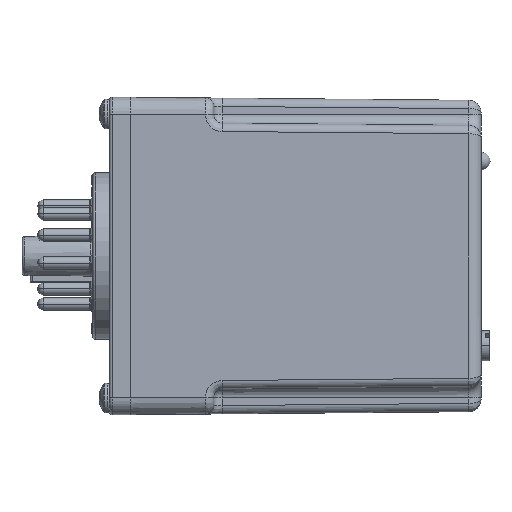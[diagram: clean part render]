
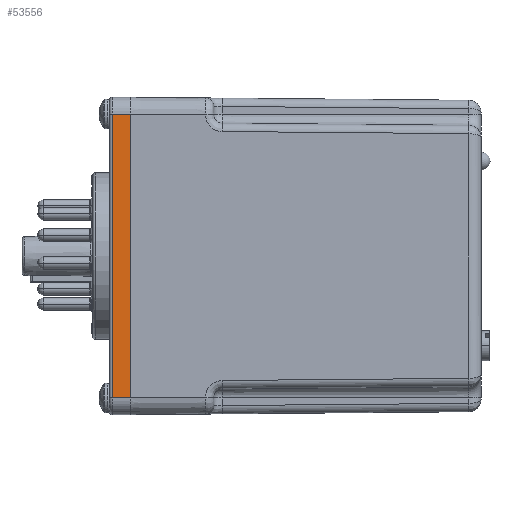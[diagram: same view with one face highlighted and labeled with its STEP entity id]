
A CAD part, left-side view. The second image highlights one B-rep face of the part: STEP entity #53556.
In plain terms, the highlighted planar face has unit normal (-1, 0, 0).
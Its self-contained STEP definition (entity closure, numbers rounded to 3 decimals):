
#31673 = CYLINDRICAL_SURFACE('',#31674,0.508);
#31674 = AXIS2_PLACEMENT_3D('',#31675,#31676,#31677);
#31675 = CARTESIAN_POINT('',(-21.717,51.791,-30.163));
#31676 = DIRECTION('',(0.,0.,1.));
#31677 = DIRECTION('',(1.,0.,0.));
#32260 = PLANE('',#32261);
#32261 = AXIS2_PLACEMENT_3D('',#32262,#32263,#32264);
#32262 = CARTESIAN_POINT('',(-22.225,48.336,-30.163));
#32263 = DIRECTION('',(0.,1.,0.));
#32264 = DIRECTION('',(1.,0.,-0.));
#38749 = VERTEX_POINT('',#38750);
#38750 = CARTESIAN_POINT('',(-22.225,48.336,26.988));
#38769 = CYLINDRICAL_SURFACE('',#38770,3.175);
#38770 = AXIS2_PLACEMENT_3D('',#38771,#38772,#38773);
#38771 = CARTESIAN_POINT('',(-19.05,48.336,26.988));
#38772 = DIRECTION('',(0.,1.,0.));
#38773 = DIRECTION('',(0.,0.,-1.));
#38781 = EDGE_CURVE('',#38782,#38749,#38784,.T.);
#38782 = VERTEX_POINT('',#38783);
#38783 = CARTESIAN_POINT('',(-22.225,48.336,-26.988));
#38784 = SURFACE_CURVE('',#38785,(#38789,#38796),.PCURVE_S1.);
#38785 = LINE('',#38786,#38787);
#38786 = CARTESIAN_POINT('',(-22.225,48.336,-30.163));
#38787 = VECTOR('',#38788,1.);
#38788 = DIRECTION('',(0.,-0.,1.));
#38789 = PCURVE('',#32260,#38790);
#38790 = DEFINITIONAL_REPRESENTATION('',(#38791),#38795);
#38791 = LINE('',#38792,#38793);
#38792 = CARTESIAN_POINT('',(0.,0.));
#38793 = VECTOR('',#38794,1.);
#38794 = DIRECTION('',(0.,-1.));
#38795 = ( GEOMETRIC_REPRESENTATION_CONTEXT(2) 
PARAMETRIC_REPRESENTATION_CONTEXT() REPRESENTATION_CONTEXT('2D SPACE',''
  ) );
#38796 = PCURVE('',#38797,#38802);
#38797 = PLANE('',#38798);
#38798 = AXIS2_PLACEMENT_3D('',#38799,#38800,#38801);
#38799 = CARTESIAN_POINT('',(-22.225,48.336,-30.163));
#38800 = DIRECTION('',(1.,0.,0.));
#38801 = DIRECTION('',(0.,0.,-1.));
#38802 = DEFINITIONAL_REPRESENTATION('',(#38803),#38807);
#38803 = LINE('',#38804,#38805);
#38804 = CARTESIAN_POINT('',(0.,0.));
#38805 = VECTOR('',#38806,1.);
#38806 = DIRECTION('',(-1.,0.));
#38807 = ( GEOMETRIC_REPRESENTATION_CONTEXT(2) 
PARAMETRIC_REPRESENTATION_CONTEXT() REPRESENTATION_CONTEXT('2D SPACE',''
  ) );
#38828 = CYLINDRICAL_SURFACE('',#38829,3.175);
#38829 = AXIS2_PLACEMENT_3D('',#38830,#38831,#38832);
#38830 = CARTESIAN_POINT('',(-19.05,52.299,-26.988));
#38831 = DIRECTION('',(0.,-1.,0.));
#38832 = DIRECTION('',(0.,0.,1.));
#53556 = ADVANCED_FACE('',(#53557),#38797,.F.);
#53557 = FACE_BOUND('',#53558,.T.);
#53558 = EDGE_LOOP('',(#53559,#53582,#53605,#53626));
#53559 = ORIENTED_EDGE('',*,*,#53560,.T.);
#53560 = EDGE_CURVE('',#38749,#53561,#53563,.T.);
#53561 = VERTEX_POINT('',#53562);
#53562 = CARTESIAN_POINT('',(-22.225,51.791,26.988));
#53563 = SURFACE_CURVE('',#53564,(#53568,#53575),.PCURVE_S1.);
#53564 = LINE('',#53565,#53566);
#53565 = CARTESIAN_POINT('',(-22.225,48.336,26.988));
#53566 = VECTOR('',#53567,1.);
#53567 = DIRECTION('',(0.,1.,0.));
#53568 = PCURVE('',#38797,#53569);
#53569 = DEFINITIONAL_REPRESENTATION('',(#53570),#53574);
#53570 = LINE('',#53571,#53572);
#53571 = CARTESIAN_POINT('',(-57.15,0.));
#53572 = VECTOR('',#53573,1.);
#53573 = DIRECTION('',(0.,1.));
#53574 = ( GEOMETRIC_REPRESENTATION_CONTEXT(2) 
PARAMETRIC_REPRESENTATION_CONTEXT() REPRESENTATION_CONTEXT('2D SPACE',''
  ) );
#53575 = PCURVE('',#38769,#53576);
#53576 = DEFINITIONAL_REPRESENTATION('',(#53577),#53581);
#53577 = LINE('',#53578,#53579);
#53578 = CARTESIAN_POINT('',(1.571,0.));
#53579 = VECTOR('',#53580,1.);
#53580 = DIRECTION('',(0.,1.));
#53581 = ( GEOMETRIC_REPRESENTATION_CONTEXT(2) 
PARAMETRIC_REPRESENTATION_CONTEXT() REPRESENTATION_CONTEXT('2D SPACE',''
  ) );
#53582 = ORIENTED_EDGE('',*,*,#53583,.T.);
#53583 = EDGE_CURVE('',#53561,#53584,#53586,.T.);
#53584 = VERTEX_POINT('',#53585);
#53585 = CARTESIAN_POINT('',(-22.225,51.791,-26.988));
#53586 = SURFACE_CURVE('',#53587,(#53591,#53598),.PCURVE_S1.);
#53587 = LINE('',#53588,#53589);
#53588 = CARTESIAN_POINT('',(-22.225,51.791,-30.163));
#53589 = VECTOR('',#53590,1.);
#53590 = DIRECTION('',(0.,0.,-1.));
#53591 = PCURVE('',#38797,#53592);
#53592 = DEFINITIONAL_REPRESENTATION('',(#53593),#53597);
#53593 = LINE('',#53594,#53595);
#53594 = CARTESIAN_POINT('',(0.,3.454));
#53595 = VECTOR('',#53596,1.);
#53596 = DIRECTION('',(1.,0.));
#53597 = ( GEOMETRIC_REPRESENTATION_CONTEXT(2) 
PARAMETRIC_REPRESENTATION_CONTEXT() REPRESENTATION_CONTEXT('2D SPACE',''
  ) );
#53598 = PCURVE('',#31673,#53599);
#53599 = DEFINITIONAL_REPRESENTATION('',(#53600),#53604);
#53600 = LINE('',#53601,#53602);
#53601 = CARTESIAN_POINT('',(3.142,0.));
#53602 = VECTOR('',#53603,1.);
#53603 = DIRECTION('',(0.,-1.));
#53604 = ( GEOMETRIC_REPRESENTATION_CONTEXT(2) 
PARAMETRIC_REPRESENTATION_CONTEXT() REPRESENTATION_CONTEXT('2D SPACE',''
  ) );
#53605 = ORIENTED_EDGE('',*,*,#53606,.T.);
#53606 = EDGE_CURVE('',#53584,#38782,#53607,.T.);
#53607 = SURFACE_CURVE('',#53608,(#53612,#53619),.PCURVE_S1.);
#53608 = LINE('',#53609,#53610);
#53609 = CARTESIAN_POINT('',(-22.225,48.336,-26.988));
#53610 = VECTOR('',#53611,1.);
#53611 = DIRECTION('',(0.,-1.,0.));
#53612 = PCURVE('',#38797,#53613);
#53613 = DEFINITIONAL_REPRESENTATION('',(#53614),#53618);
#53614 = LINE('',#53615,#53616);
#53615 = CARTESIAN_POINT('',(-3.175,0.));
#53616 = VECTOR('',#53617,1.);
#53617 = DIRECTION('',(0.,-1.));
#53618 = ( GEOMETRIC_REPRESENTATION_CONTEXT(2) 
PARAMETRIC_REPRESENTATION_CONTEXT() REPRESENTATION_CONTEXT('2D SPACE',''
  ) );
#53619 = PCURVE('',#38828,#53620);
#53620 = DEFINITIONAL_REPRESENTATION('',(#53621),#53625);
#53621 = LINE('',#53622,#53623);
#53622 = CARTESIAN_POINT('',(1.571,3.962));
#53623 = VECTOR('',#53624,1.);
#53624 = DIRECTION('',(0.,1.));
#53625 = ( GEOMETRIC_REPRESENTATION_CONTEXT(2) 
PARAMETRIC_REPRESENTATION_CONTEXT() REPRESENTATION_CONTEXT('2D SPACE',''
  ) );
#53626 = ORIENTED_EDGE('',*,*,#38781,.T.);
